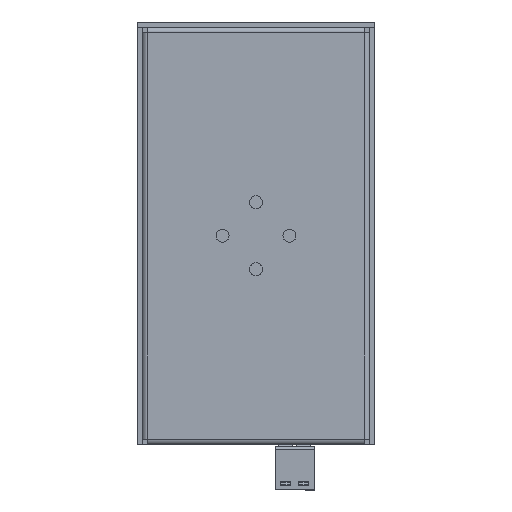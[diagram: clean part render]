
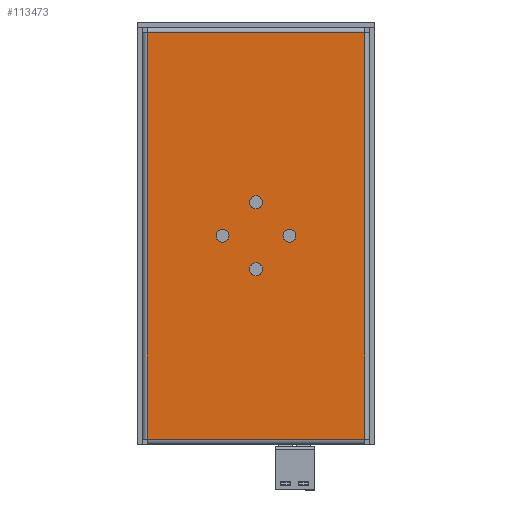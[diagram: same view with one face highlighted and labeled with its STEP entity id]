
A CAD part, front view. The second image highlights one B-rep face of the part: STEP entity #113473.
In plain terms, the highlighted planar face has unit normal (0, -1, 0).
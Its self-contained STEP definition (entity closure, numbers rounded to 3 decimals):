
#1330=FACE_BOUND('',#12168,.T.);
#1331=FACE_BOUND('',#12169,.T.);
#1332=FACE_BOUND('',#12170,.T.);
#1333=FACE_BOUND('',#12171,.T.);
#5882=FACE_OUTER_BOUND('',#12167,.T.);
#12167=EDGE_LOOP('',(#91787,#91788,#91789,#91790));
#12168=EDGE_LOOP('',(#91791));
#12169=EDGE_LOOP('',(#91792));
#12170=EDGE_LOOP('',(#91793));
#12171=EDGE_LOOP('',(#91794));
#16634=CIRCLE('',#121702,1.265);
#16635=CIRCLE('',#121704,1.265);
#16636=CIRCLE('',#121706,1.265);
#16637=CIRCLE('',#121708,1.265);
#26317=LINE('',#184817,#39866);
#26334=LINE('',#184857,#39883);
#26340=LINE('',#184875,#39889);
#26355=LINE('',#184913,#39904);
#39866=VECTOR('',#143973,10.);
#39883=VECTOR('',#144020,10.);
#39889=VECTOR('',#144044,10.);
#39904=VECTOR('',#144091,10.);
#52014=VERTEX_POINT('',#184736);
#52015=VERTEX_POINT('',#184740);
#52016=VERTEX_POINT('',#184744);
#52017=VERTEX_POINT('',#184748);
#52036=VERTEX_POINT('',#184814);
#52037=VERTEX_POINT('',#184816);
#52045=VERTEX_POINT('',#184856);
#52048=VERTEX_POINT('',#184873);
#66114=EDGE_CURVE('',#52014,#52014,#16634,.T.);
#66116=EDGE_CURVE('',#52015,#52015,#16635,.T.);
#66118=EDGE_CURVE('',#52016,#52016,#16636,.T.);
#66120=EDGE_CURVE('',#52017,#52017,#16637,.T.);
#66153=EDGE_CURVE('',#52037,#52036,#26317,.T.);
#66175=EDGE_CURVE('',#52045,#52037,#26334,.T.);
#66186=EDGE_CURVE('',#52036,#52048,#26340,.T.);
#66207=EDGE_CURVE('',#52048,#52045,#26355,.T.);
#91787=ORIENTED_EDGE('',*,*,#66175,.T.);
#91788=ORIENTED_EDGE('',*,*,#66153,.T.);
#91789=ORIENTED_EDGE('',*,*,#66186,.T.);
#91790=ORIENTED_EDGE('',*,*,#66207,.T.);
#91791=ORIENTED_EDGE('',*,*,#66114,.T.);
#91792=ORIENTED_EDGE('',*,*,#66116,.T.);
#91793=ORIENTED_EDGE('',*,*,#66118,.T.);
#91794=ORIENTED_EDGE('',*,*,#66120,.T.);
#108393=PLANE('',#121853);
#113473=ADVANCED_FACE('',(#5882,#1330,#1331,#1332,#1333),#108393,.T.);
#121702=AXIS2_PLACEMENT_3D('',#184737,#143891,#143892);
#121704=AXIS2_PLACEMENT_3D('',#184741,#143896,#143897);
#121706=AXIS2_PLACEMENT_3D('',#184745,#143901,#143902);
#121708=AXIS2_PLACEMENT_3D('',#184749,#143906,#143907);
#121853=AXIS2_PLACEMENT_3D('',#185262,#144361,#144362);
#143891=DIRECTION('center_axis',(0.,1.,0.));
#143892=DIRECTION('ref_axis',(0.,0.,-1.));
#143896=DIRECTION('center_axis',(0.,1.,0.));
#143897=DIRECTION('ref_axis',(0.,0.,-1.));
#143901=DIRECTION('center_axis',(0.,1.,0.));
#143902=DIRECTION('ref_axis',(0.,0.,-1.));
#143906=DIRECTION('center_axis',(0.,1.,0.));
#143907=DIRECTION('ref_axis',(0.,0.,-1.));
#143973=DIRECTION('',(-1.,0.,0.));
#144020=DIRECTION('',(0.,0.,1.));
#144044=DIRECTION('',(0.,0.,-1.));
#144091=DIRECTION('',(1.,0.,0.));
#144361=DIRECTION('center_axis',(0.,-1.,0.));
#144362=DIRECTION('ref_axis',(0.,0.,-1.));
#184736=CARTESIAN_POINT('',(20.,-6.,-31.736));
#184737=CARTESIAN_POINT('Origin',(20.,-6.,-33.));
#184740=CARTESIAN_POINT('',(13.5,-6.,-38.236));
#184741=CARTESIAN_POINT('Origin',(13.5,-6.,-39.5));
#184744=CARTESIAN_POINT('',(26.5,-6.,-38.236));
#184745=CARTESIAN_POINT('Origin',(26.5,-6.,-39.5));
#184748=CARTESIAN_POINT('',(20.,-6.,-44.736));
#184749=CARTESIAN_POINT('Origin',(20.,-6.,-46.));
#184814=CARTESIAN_POINT('',(-1.09,-6.,-0.01));
#184816=CARTESIAN_POINT('',(41.09,-6.,-0.01));
#184817=CARTESIAN_POINT('',(9.455,-6.,-0.01));
#184856=CARTESIAN_POINT('',(41.09,-6.,-78.99));
#184857=CARTESIAN_POINT('',(41.09,-6.,-19.25));
#184873=CARTESIAN_POINT('',(-1.09,-6.,-78.99));
#184875=CARTESIAN_POINT('',(-1.09,-6.,-59.245));
#184913=CARTESIAN_POINT('',(31.05,-6.,-78.99));
#185262=CARTESIAN_POINT('Origin',(4.2,-6.,-57.25));
